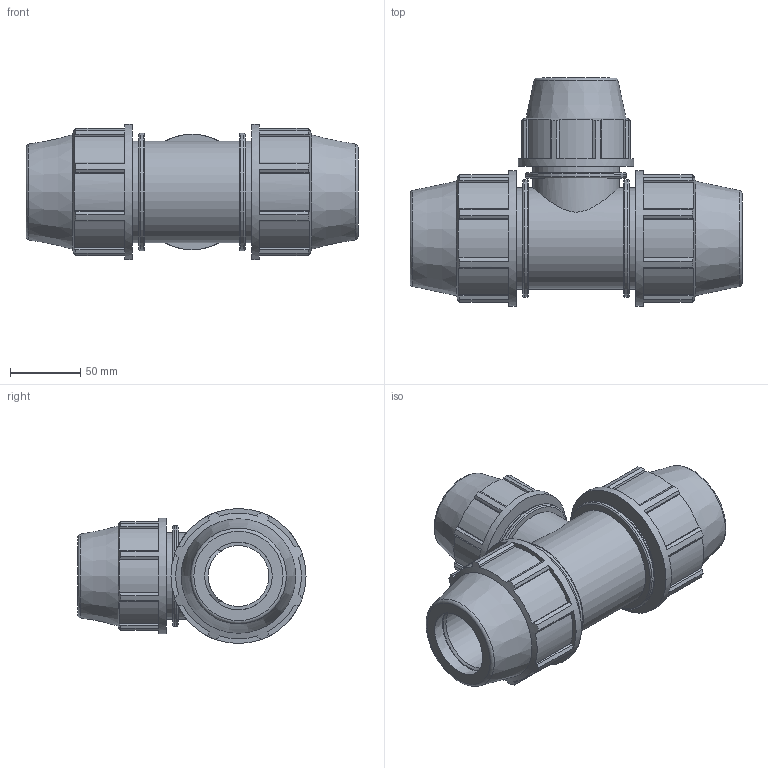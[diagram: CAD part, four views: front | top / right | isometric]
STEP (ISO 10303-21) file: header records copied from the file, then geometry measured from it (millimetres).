
FILE_DESCRIPTION(/* description */ ('PLASSON REDUCING TEE 1 1/2'''' - 1 1/4'''' - 1 1/2'''''),/* implementation_level */ '2;1');
FILE_NAME(/* name */ 'C:\Dropbox\KIMPROJECTS-Inventor 2019\99-16-3568-Processing Inch\ASTM Compression 2021\0734M0\0734M0015013.ipt.stp',/* time_stamp */ '2021-08-26T12:34:01+03:00',/* author */ ('Кирилл'),/* organization */ (''),/* preprocessor_version */ 'ST-DEVELOPER v17.2',/* originating_system */ 'Autodesk Inventor 2019',/* authorisation */ '');
FILE_SCHEMA (('AUTOMOTIVE_DESIGN { 1 0 10303 214 3 1 1 }'));
Length unit declared in the file: inch
Products named in the file (1): 0734M0015013
Bounding box: 235.97 x 162.05 x 96.01 mm (x, y, z)
Volume: 973489.8 mm3; surface area: 151400.3 mm2
Topology: 1 solids, 1 shells, 201 faces, 596 edges, 410 vertices
Faces by surface type: plane 138, cylinder 42, cone 12, torus 9
Full cylindrical faces by diameter (mm): 37.89 x1, 42.1 x1, 43.29 x1, 48.1 x2, 61.531 x2, 71.377 x1, 72.009 x3, 82.042 x1, 83.53 x2, 96.012 x2
Entity records: 7267 total; most frequent: CARTESIAN_POINT 1523, ORIENTED_EDGE 1192, DIRECTION 1157, EDGE_CURVE 596, AXIS2_PLACEMENT_3D 418, VERTEX_POINT 410, LINE 321, VECTOR 321
